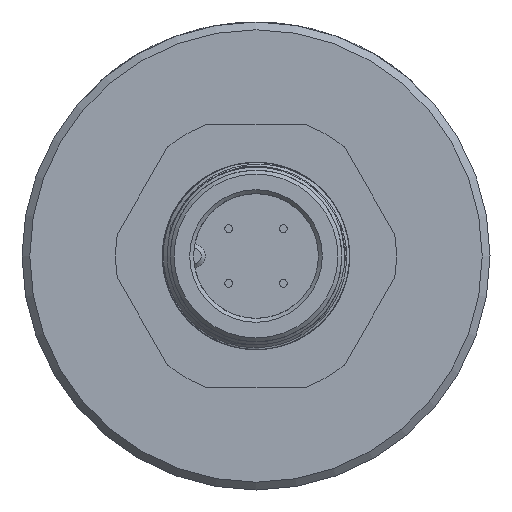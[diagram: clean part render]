
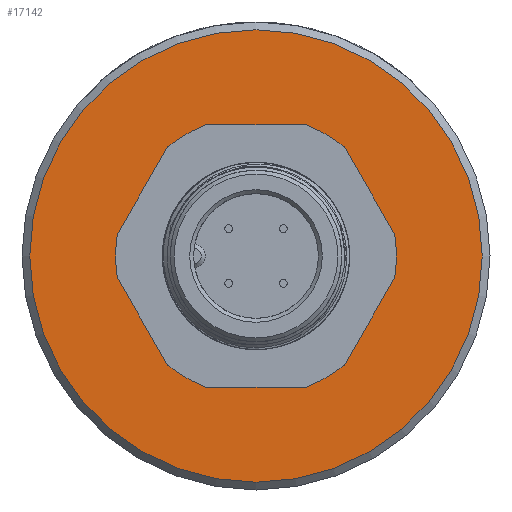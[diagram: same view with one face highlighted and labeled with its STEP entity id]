
A CAD part, left-side view. The second image highlights one B-rep face of the part: STEP entity #17142.
In plain terms, the highlighted planar face has unit normal (-1, 0, 0).
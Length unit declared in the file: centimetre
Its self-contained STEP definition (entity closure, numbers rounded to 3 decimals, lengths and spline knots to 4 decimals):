
#4899=PLANE('',#17949);
#7924=VERTEX_POINT('',#22570);
#7943=VERTEX_POINT('',#22614);
#9145=CIRCLE('',#17927,0.725);
#9155=CIRCLE('',#17948,1.45);
#9462=EDGE_CURVE('',#7924,#7924,#9145,.T.);
#9483=EDGE_CURVE('',#7943,#7943,#9155,.T.);
#11436=ORIENTED_EDGE('',*,*,#9462,.T.);
#11437=ORIENTED_EDGE('',*,*,#9483,.F.);
#15229=EDGE_LOOP('',(#11436));
#15230=EDGE_LOOP('',(#11437));
#16190=FACE_BOUND('',#15229,.T.);
#16191=FACE_BOUND('',#15230,.T.);
#17142=ADVANCED_FACE('',(#16190,#16191),#4899,.T.);
#17927=AXIS2_PLACEMENT_3D('',#22569,#19237,#19238);
#17948=AXIS2_PLACEMENT_3D('',#22613,#19277,#19278);
#17949=AXIS2_PLACEMENT_3D('',#22615,#19279,$);
#19237=DIRECTION('',(1.,0.,0.));
#19238=DIRECTION('',(0.,0.,0.725));
#19277=DIRECTION('',(1.,0.,0.));
#19278=DIRECTION('',(0.,0.,1.45));
#19279=DIRECTION('',(-1.,0.,0.));
#22569=CARTESIAN_POINT('',(0.,0.,0.));
#22570=CARTESIAN_POINT('',(0.,0.,0.725));
#22613=CARTESIAN_POINT('',(0.,0.,0.));
#22614=CARTESIAN_POINT('',(0.,0.,-1.45));
#22615=CARTESIAN_POINT('',(0.,0.,-0.5));
